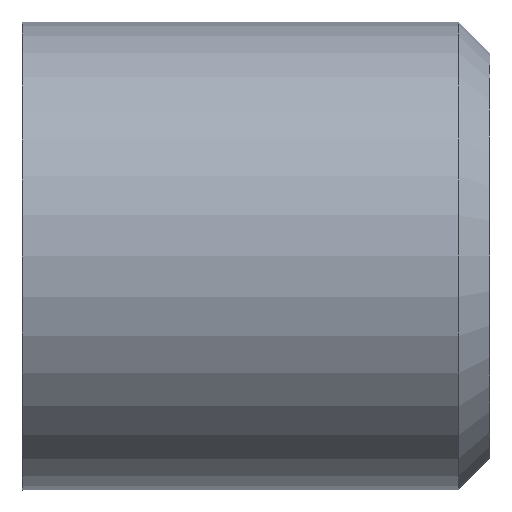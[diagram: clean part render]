
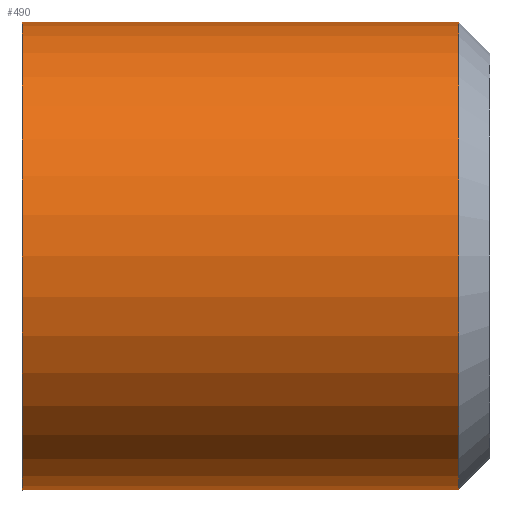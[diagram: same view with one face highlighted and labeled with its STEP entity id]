
A CAD part, front view. The second image highlights one B-rep face of the part: STEP entity #490.
In plain terms, the highlighted cylindrical face has radius 7.5 mm (diameter 15 mm), a partial arc.
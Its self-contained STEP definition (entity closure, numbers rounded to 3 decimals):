
#9 = VERTEX_POINT ( 'NONE', #417 ) ;
#13 = EDGE_CURVE ( 'NONE', #108, #9, #416, .T. ) ;
#108 = VERTEX_POINT ( 'NONE', #2859 ) ;
#109 = VERTEX_POINT ( 'NONE', #2858 ) ;
#110 = EDGE_CURVE ( 'NONE', #109, #121, #2857, .T. ) ;
#121 = VERTEX_POINT ( 'NONE', #2892 ) ;
#374 = EDGE_CURVE ( 'NONE', #108, #109, #4234, .T. ) ;
#408 = DIRECTION ( 'NONE',  ( 1., 0., 0. ) ) ;
#409 = VECTOR ( 'NONE', #408, 1000. ) ;
#410 = CARTESIAN_POINT ( 'NONE',  ( -0.5, 0., 7.5 ) ) ;
#416 = LINE ( 'NONE', #410, #409 ) ;
#417 = CARTESIAN_POINT ( 'NONE',  ( 6.5, 0., 7.5 ) ) ;
#489 = EDGE_CURVE ( 'NONE', #121, #9, #4441, .T. ) ;
#490 = ADVANCED_FACE ( 'NONE', ( #4442 ), #4471, .T. ) ;
#491 = EDGE_LOOP ( 'NONE', ( #492, #493, #494, #495 ) ) ;
#492 = ORIENTED_EDGE ( 'NONE', *, *, #13, .F. ) ;
#493 = ORIENTED_EDGE ( 'NONE', *, *, #374, .T. ) ;
#494 = ORIENTED_EDGE ( 'NONE', *, *, #110, .T. ) ;
#495 = ORIENTED_EDGE ( 'NONE', *, *, #489, .T. ) ;
#2854 = DIRECTION ( 'NONE',  ( 1., 0., 0. ) ) ;
#2855 = VECTOR ( 'NONE', #2854, 1000. ) ;
#2856 = CARTESIAN_POINT ( 'NONE',  ( -0.5, 0., -7.5 ) ) ;
#2857 = LINE ( 'NONE', #2856, #2855 ) ;
#2858 = CARTESIAN_POINT ( 'NONE',  ( -7.5, 0., -7.5 ) ) ;
#2859 = CARTESIAN_POINT ( 'NONE',  ( -7.5, 0., 7.5 ) ) ;
#2892 = CARTESIAN_POINT ( 'NONE',  ( 6.5, 0., -7.5 ) ) ;
#4231 = DIRECTION ( 'NONE',  ( 0., 0., -1. ) ) ;
#4232 = DIRECTION ( 'NONE',  ( 1., 0., 0. ) ) ;
#4233 = AXIS2_PLACEMENT_3D ( 'NONE', #4238, #4232, #4231 ) ;
#4234 = CIRCLE ( 'NONE', #4233, 7.5 ) ;
#4238 = CARTESIAN_POINT ( 'NONE',  ( -7.5, 0., 0. ) ) ;
#4437 = CARTESIAN_POINT ( 'NONE',  ( -0.5, 0., 0. ) ) ;
#4438 = DIRECTION ( 'NONE',  ( 0., 0., -1. ) ) ;
#4439 = DIRECTION ( 'NONE',  ( -1., 0., 0. ) ) ;
#4440 = AXIS2_PLACEMENT_3D ( 'NONE', #4447, #4439, #4438 ) ;
#4441 = CIRCLE ( 'NONE', #4440, 7.5 ) ;
#4442 = FACE_OUTER_BOUND ( 'NONE', #491, .T. ) ;
#4447 = CARTESIAN_POINT ( 'NONE',  ( 6.5, 0., 0. ) ) ;
#4468 = DIRECTION ( 'NONE',  ( 0., 0., -1. ) ) ;
#4469 = DIRECTION ( 'NONE',  ( 1., 0., 0. ) ) ;
#4470 = AXIS2_PLACEMENT_3D ( 'NONE', #4437, #4469, #4468 ) ;
#4471 = CYLINDRICAL_SURFACE ( 'NONE', #4470, 7.5 ) ;
